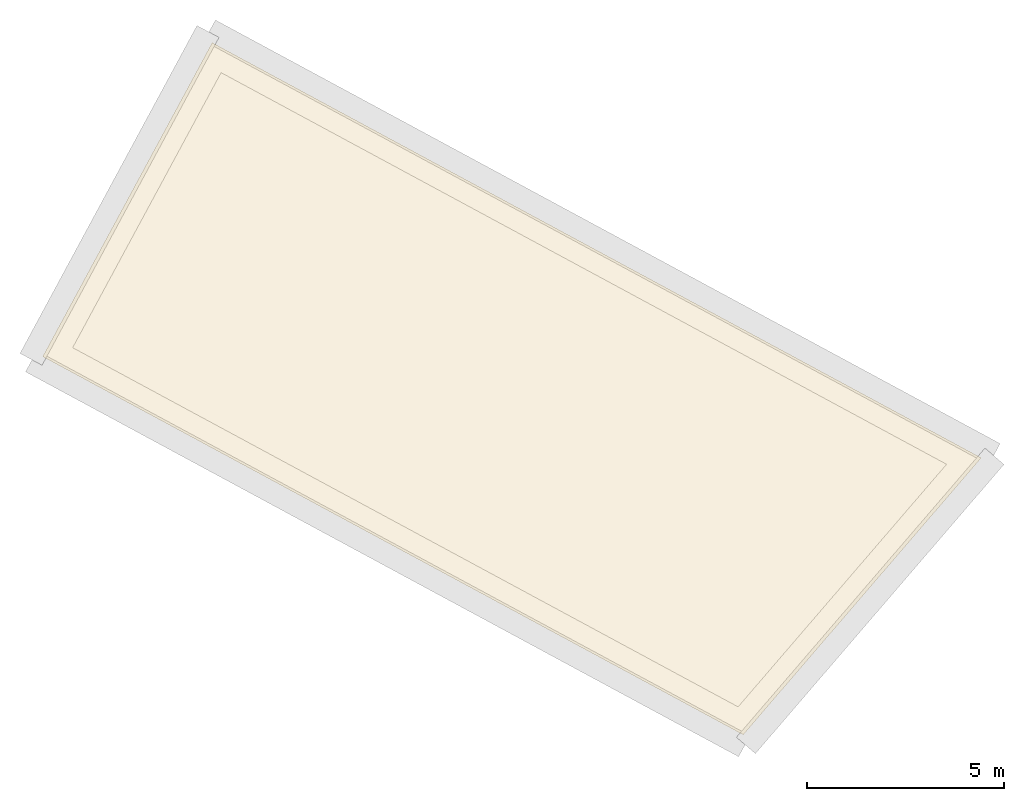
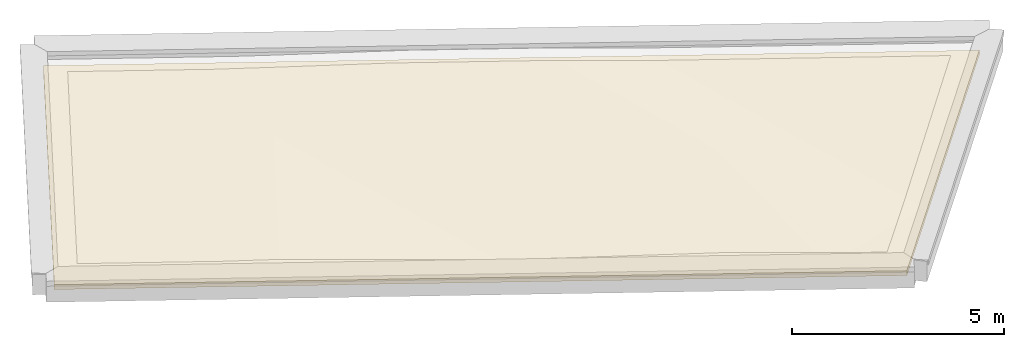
# One storey, part 2 of 3: 1 covering.
"""IFC2X3 building model written with IfcOpenShell, lengths in metres."""

from ifc_helpers import new_model, entity, si_unit, converted_unit, derived_unit, money_unit, direction, frame, origin_with_axes, place, context, subcontext, project, spatial, polyline, outline, extrude, material, type_object, element, save


model = new_model("IFC2X3")

# Units and contexts
model_context = context("Model", 3, precision=1e-05, world=origin_with_axes(), true_north=direction((0.0, 1.0)))
body_context = subcontext(model_context, "Body", "Model", "MODEL_VIEW")
ifc_project = project(units=[si_unit("LENGTHUNIT", "METRE"), si_unit("AREAUNIT", "SQUARE_METRE"), si_unit("VOLUMEUNIT", "CUBIC_METRE"), converted_unit("PLANEANGLEUNIT", "DEGREE", entity("IfcPlaneAngleMeasure", 0.0174532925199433), si_unit("PLANEANGLEUNIT", "RADIAN"), dimensions=[0, 0, 0, 0, 0, 0, 0]), money_unit("EUR"), converted_unit("TIMEUNIT", "Year", entity("IfcTimeMeasure", 31556926.0), si_unit("TIMEUNIT", "SECOND"), dimensions=[0, 0, 1, 0, 0, 0, 0]), si_unit("MASSUNIT", "GRAM", prefix="KILO"), si_unit("THERMODYNAMICTEMPERATUREUNIT", "DEGREE_CELSIUS"), si_unit("LUMINOUSINTENSITYUNIT", "LUMEN"), si_unit("ENERGYUNIT", "JOULE", prefix="MEGA"), derived_unit("THERMALCONDUCTANCEUNIT", [(si_unit("POWERUNIT", "WATT"), 1), (si_unit("LENGTHUNIT", "METRE"), -1), (si_unit("THERMODYNAMICTEMPERATUREUNIT", "KELVIN"), -1)]), derived_unit("SPECIFICHEATCAPACITYUNIT", [(si_unit("ENERGYUNIT", "JOULE"), 1), (si_unit("MASSUNIT", "GRAM", prefix="KILO"), -1), (si_unit("THERMODYNAMICTEMPERATUREUNIT", "KELVIN"), -1)]), derived_unit("MASSDENSITYUNIT", [(si_unit("MASSUNIT", "GRAM", prefix="KILO"), 1), (si_unit("VOLUMEUNIT", "CUBIC_METRE"), -1)])], contexts=[model_context])

# Site, building, storey
site_placement = place(None, frame((-3.949935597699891, 1.740105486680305, 0.0), z_axis=(0.0, 0.0, 1.0), x_axis=(0.8799804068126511, -0.475009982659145, 0.0)))
site = spatial("IfcSite", under=ifc_project, at=site_placement, Name="Gelände", CompositionType="ELEMENT")
building_placement = place(site_placement, origin_with_axes())
building = spatial("IfcBuilding", under=site, at=building_placement, Name="Gebäude", CompositionType="ELEMENT")
storey_placement = place(building_placement, frame((0.0, 0.0, 7.904999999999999), z_axis=(0.0, 0.0, 1.0), x_axis=(1.0, 0.0, 0.0)))
storey = spatial("IfcBuildingStorey", under=building, at=storey_placement, Name="Dachaufsicht", CompositionType="ELEMENT", Elevation=7.905)

# Covering
ifc_material = material(Name="_SIWH - Dämmung, hart Mineralwolle")
covering_type = type_object("IfcCoveringType", Name="_SIWH - Dämmung, hart Mineralwolle 140", PredefinedType="INSULATION")
covering_placement = place(storey_placement, frame((5.597484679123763, 1.624987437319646, -0.1909999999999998), z_axis=(0.0, 0.0, 1.0), x_axis=(1.0, 0.0, 0.0)))
element("IfcCovering", 1, at=covering_placement, inside=storey, type_object=covering_type, material=ifc_material, Name="Decke032", PredefinedType="INSULATION", context=body_context, shape_type="SweptSolid", body=[
    extrude(outline(polyline([(0.0, 0.0), (20.15760748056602, 0.0), (22.1304500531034, 9.0328131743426), (0.0, 9.0328131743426), (0.0, 0.0)])), origin_with_axes(), (0.0, 0.0, 1.0), 0.14),
])

save(model, "model.ifc")
